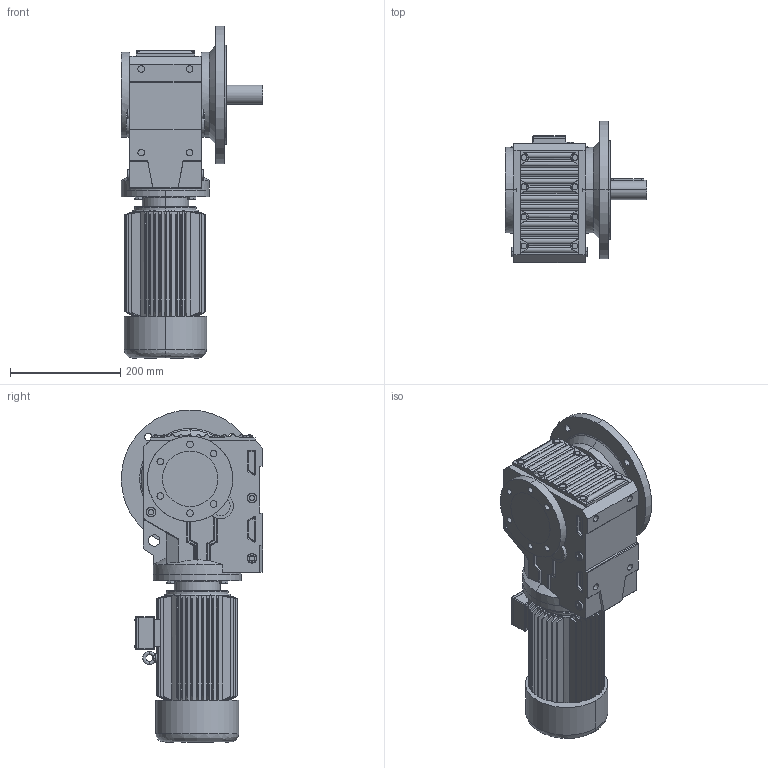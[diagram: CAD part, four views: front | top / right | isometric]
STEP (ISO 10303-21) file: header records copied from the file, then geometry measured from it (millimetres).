
FILE_DESCRIPTION (( 'STEP AP214' ), '1' );
FILE_NAME ('MKF57A.step', '2020-06-27T07:12:23', ( '' ), ( '' ), 'SwSTEP 2.0', 'SolidWorks 2016', '' );
FILE_SCHEMA (( 'AUTOMOTIVE_DESIGN' ));
Length unit declared in the file: millimetre
Products named in the file (1): MKF57A
Bounding box: 256.5 x 257 x 603 mm (x, y, z)
Volume: 12242136.9 mm3; surface area: 786124.4 mm2
Topology: 5 solids, 5 shells, 1378 faces, 3382 edges, 2058 vertices
Faces by surface type: plane 606, cylinder 352, cone 237, bspline 183
Entity records: 59509 total; most frequent: CARTESIAN_POINT 13717, ORIENTED_EDGE 6676, DIRECTION 5859, EDGE_CURVE 3338, AXIS2_PLACEMENT_3D 2117, VERTEX_POINT 2058, LINE 1625, VECTOR 1625
